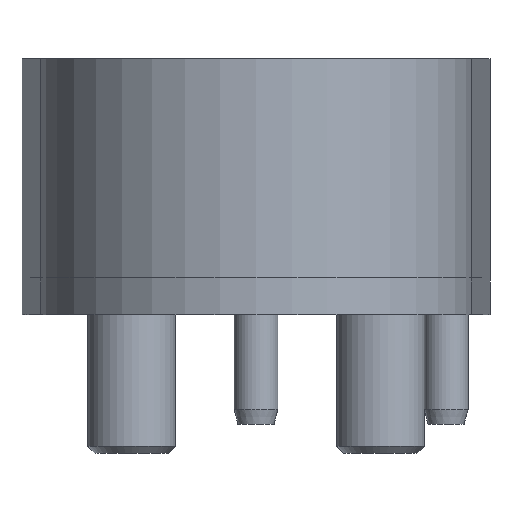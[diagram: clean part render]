
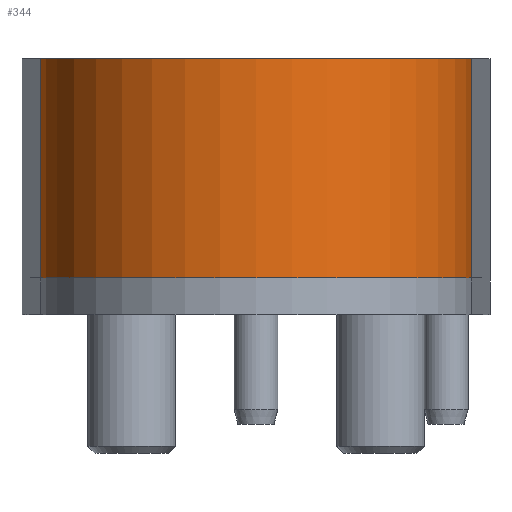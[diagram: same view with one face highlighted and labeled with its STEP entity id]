
A CAD part, left-side view. The second image highlights one B-rep face of the part: STEP entity #344.
In plain terms, the highlighted cylindrical face has radius 29.5 mm (diameter 59 mm), a partial arc.
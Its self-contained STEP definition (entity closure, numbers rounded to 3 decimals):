
#255=CYLINDRICAL_SURFACE('',#2702,29.5);
#344=ADVANCED_FACE('',(#521),#255,.T.);
#521=FACE_OUTER_BOUND('',#673,.T.);
#673=EDGE_LOOP('',(#1167,#1168,#1169,#1170));
#859=CIRCLE('',#2700,29.5);
#860=CIRCLE('',#2701,29.5);
#1167=ORIENTED_EDGE('',*,*,#1975,.T.);
#1168=ORIENTED_EDGE('',*,*,#1976,.F.);
#1169=ORIENTED_EDGE('',*,*,#1977,.F.);
#1170=ORIENTED_EDGE('',*,*,#1978,.T.);
#1715=VERTEX_POINT('',#3979);
#1716=VERTEX_POINT('',#3980);
#1717=VERTEX_POINT('',#3982);
#1718=VERTEX_POINT('',#3984);
#1975=EDGE_CURVE('',#1715,#1716,#2263,.T.);
#1976=EDGE_CURVE('',#1717,#1716,#859,.T.);
#1977=EDGE_CURVE('',#1718,#1717,#2264,.T.);
#1978=EDGE_CURVE('',#1718,#1715,#860,.T.);
#2263=LINE('',#3978,#2455);
#2264=LINE('',#3983,#2456);
#2455=VECTOR('',#3155,1.);
#2456=VECTOR('',#3158,1.);
#2700=AXIS2_PLACEMENT_3D('',#3981,#3156,#3157);
#2701=AXIS2_PLACEMENT_3D('',#3985,#3159,#3160);
#2702=AXIS2_PLACEMENT_3D('',#3986,#3161,#3162);
#3155=DIRECTION('',(0.,0.,1.));
#3156=DIRECTION('',(0.,0.,1.));
#3157=DIRECTION('',(1.,0.,0.));
#3158=DIRECTION('',(0.,0.,1.));
#3159=DIRECTION('',(0.,0.,1.));
#3160=DIRECTION('',(1.,0.,0.));
#3161=DIRECTION('',(0.,0.,1.));
#3162=DIRECTION('',(-1.,0.,0.));
#3978=CARTESIAN_POINT('',(-1.989,-29.433,5.));
#3979=CARTESIAN_POINT('',(-1.989,-29.433,5.));
#3980=CARTESIAN_POINT('',(-1.989,-29.433,35.));
#3981=CARTESIAN_POINT('',(0.,0.,35.));
#3982=CARTESIAN_POINT('',(-1.989,29.433,35.));
#3983=CARTESIAN_POINT('',(-1.989,29.433,5.));
#3984=CARTESIAN_POINT('',(-1.989,29.433,5.));
#3985=CARTESIAN_POINT('',(0.,0.,5.));
#3986=CARTESIAN_POINT('',(0.,0.,0.));
